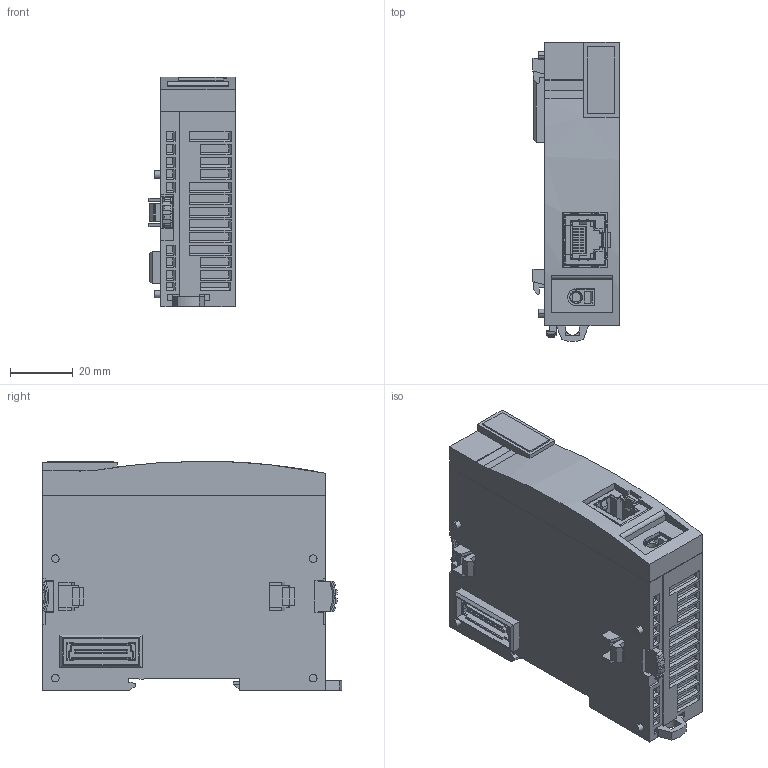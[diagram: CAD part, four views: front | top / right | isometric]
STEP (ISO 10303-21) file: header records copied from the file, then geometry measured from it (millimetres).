
FILE_DESCRIPTION (( 'STEP AP214' ), '1' );
FILE_NAME ('OUTSIDE-FC6A-EXM1M.STEP', '2017-06-30T03:56:17', ( '' ), ( '' ), 'SwSTEP 2.0', 'SolidWorks 2014', '' );
FILE_SCHEMA (( 'AUTOMOTIVE_DESIGN' ));
Length unit declared in the file: millimetre
Products named in the file (3): OUTSIDE-FC6A-EX-DIN-RAIL-HOOK; OUTSIDE-FC6A-EXM1M-BODY; OUTSIDE-FC6A-EXM1M
Assembly tree (2 placements, depth 2):
  OUTSIDE-FC6A-EXM1M
    OUTSIDE-FC6A-EXM1M-BODY
    OUTSIDE-FC6A-EX-DIN-RAIL-HOOK
Bounding box: 27.4 x 95.11 x 73 mm (x, y, z)
Volume: 133392.1 mm3; surface area: 44787.4 mm2
Topology: 2 solids, 2 shells, 1444 faces, 4096 edges, 2678 vertices
Faces by surface type: plane 1178, cylinder 183, bspline 42, cone 41
Entity records: 49801 total; most frequent: CARTESIAN_POINT 13613, ORIENTED_EDGE 8192, DIRECTION 6245, EDGE_CURVE 4096, LINE 3217, VECTOR 3217, VERTEX_POINT 2678, EDGE_LOOP 1582
